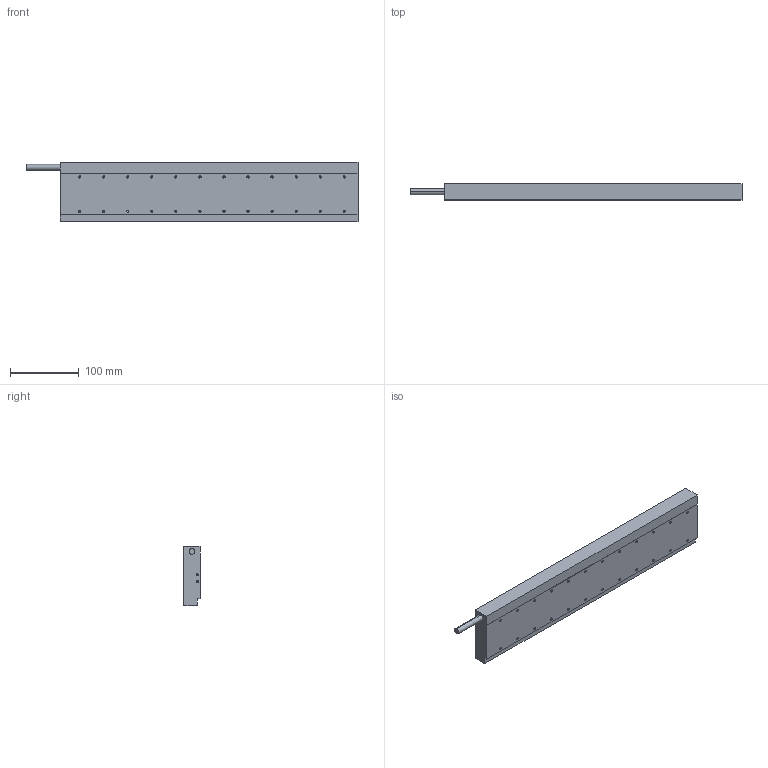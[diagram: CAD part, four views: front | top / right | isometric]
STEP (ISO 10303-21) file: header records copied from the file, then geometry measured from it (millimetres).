
FILE_DESCRIPTION (( 'STEP AP214' ), '1' );
FILE_NAME ('雄赽MK24.STEP', '2025-09-05T09:00:19', ( '' ), ( '' ), 'SwSTEP 2.0', 'SolidWorks 2016', '' );
FILE_SCHEMA (( 'AUTOMOTIVE_DESIGN' ));
Length unit declared in the file: millimetre
Products named in the file (1): 雄赽MK24
Bounding box: 483 x 23.7 x 86 mm (x, y, z)
Volume: 865296.7 mm3; surface area: 101971.9 mm2
Topology: 1 solids, 1 shells, 117 faces, 290 edges, 150 vertices
Faces by surface type: cylinder 54, cone 52, plane 11
Entity records: 3755 total; most frequent: DIRECTION 582, CARTESIAN_POINT 506, ORIENTED_EDGE 476, EDGE_CURVE 238, AXIS2_PLACEMENT_3D 226, VERTEX_POINT 150, EDGE_LOOP 144, VECTOR 130
